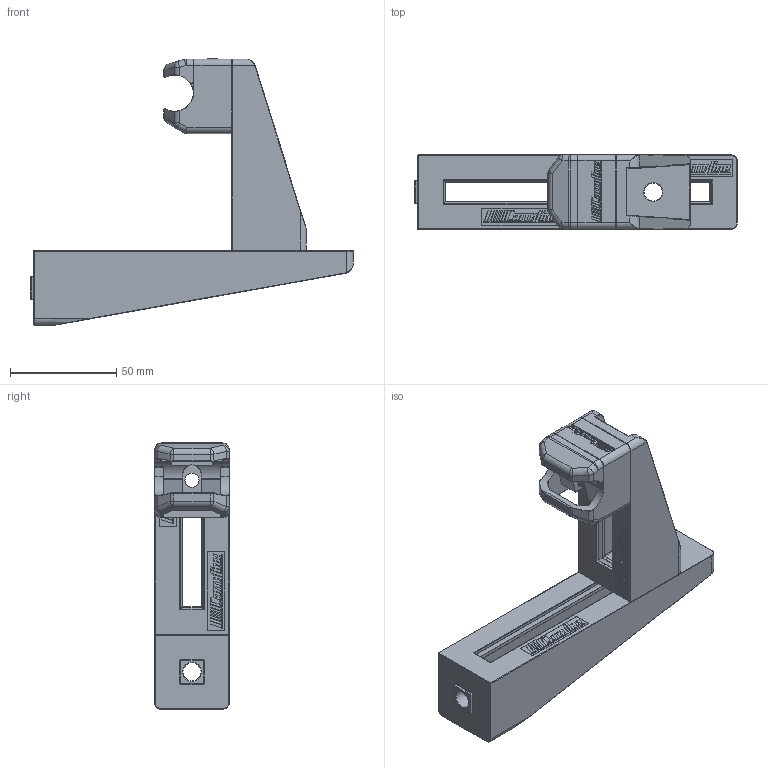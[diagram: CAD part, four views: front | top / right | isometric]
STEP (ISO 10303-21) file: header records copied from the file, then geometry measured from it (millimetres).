
FILE_DESCRIPTION(/* description */ (''),/* implementation_level */ '2;1');
FILE_NAME(/* name */ '\\carryline.intra\privat\users\mathias\Desktop\Tillfälliga filer\300-0840.stp',/* time_stamp */ '2018-11-30T08:03:59+01:00',/* author */ ('PL'),/* organization */ (''),/* preprocessor_version */ 'ST-DEVELOPER v17',/* originating_system */ 'Autodesk Inventor 2018',/* authorisation */ '');
FILE_SCHEMA (('AUTOMOTIVE_DESIGN { 1 0 10303 214 3 1 1 }'));
Length unit declared in the file: millimetre
Products named in the file (4): 300-0840; 300-1000; 300-2090; 300-2150
Assembly tree (3 placements, depth 2):
  300-0840
    300-1000
    300-2090
    300-2150
Bounding box: 151.5 x 35 x 125.1 mm (x, y, z)
Volume: 112186.3 mm3; surface area: 51701.5 mm2
Topology: 5 solids, 5 shells, 1282 faces, 3110 edges, 1840 vertices
Faces by surface type: plane 773, cylinder 286, bspline 94, sphere 68, torus 61
Full cylindrical faces by diameter (mm): 6.647 x1, 8.5 x2, 9 x1
Entity records: 39066 total; most frequent: CARTESIAN_POINT 8993, DIRECTION 6049, ORIENTED_EDGE 6028, EDGE_CURVE 3014, LINE 2245, VECTOR 2245, AXIS2_PLACEMENT_3D 1902, VERTEX_POINT 1840
